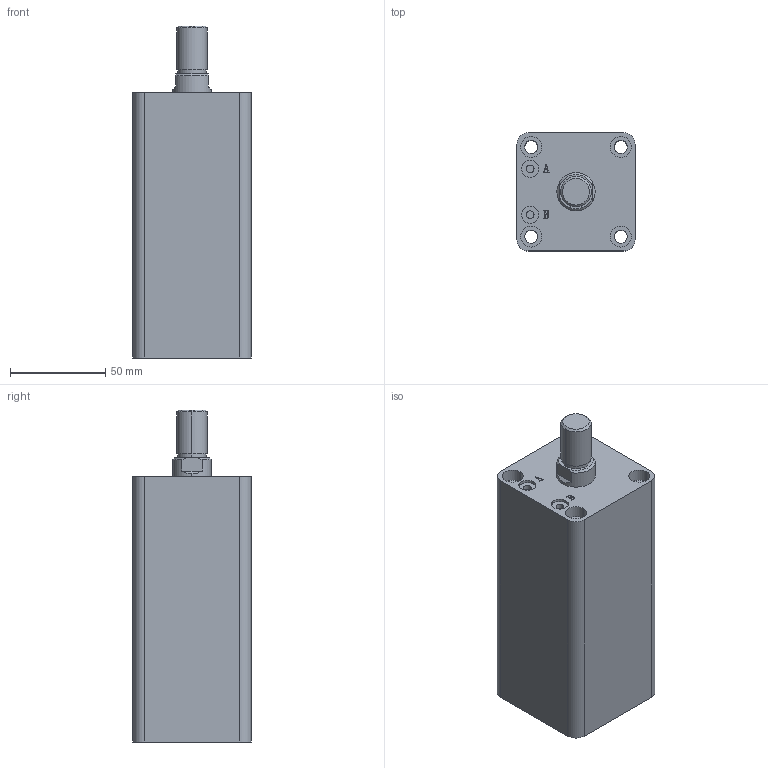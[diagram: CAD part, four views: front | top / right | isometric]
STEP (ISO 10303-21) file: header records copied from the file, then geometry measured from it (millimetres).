
FILE_DESCRIPTION (( 'STEP AP203' ), '1' );
FILE_NAME ('HTB-SDMA32-85W.STEP', '2019-10-07T11:44:57', ( '微软用户' ), ( '微软中国' ), 'SwSTEP 2.0', 'SolidWorks 2012', '' );
FILE_SCHEMA (( 'CONFIG_CONTROL_DESIGN' ));
Length unit declared in the file: millimetre
Products named in the file (3): HTB-SDMA32-85W; HTB-SDMA32-85W活塞杆; HTB-SDMA32-85掛极
Assembly tree (2 placements, depth 2):
  HTB-SDMA32-85W
    HTB-SDMA32-85掛极
    HTB-SDMA32-85W活塞杆
Bounding box: 62 x 62 x 174 mm (x, y, z)
Volume: 472553.9 mm3; surface area: 78505.1 mm2
Topology: 2 solids, 2 shells, 141 faces, 337 edges, 222 vertices
Faces by surface type: plane 67, cylinder 48, bspline 16, torus 6, cone 4
Entity records: 5176 total; most frequent: CARTESIAN_POINT 1593, ORIENTED_EDGE 674, DIRECTION 669, EDGE_CURVE 337, AXIS2_PLACEMENT_3D 242, VERTEX_POINT 222, VECTOR 185, LINE 185
